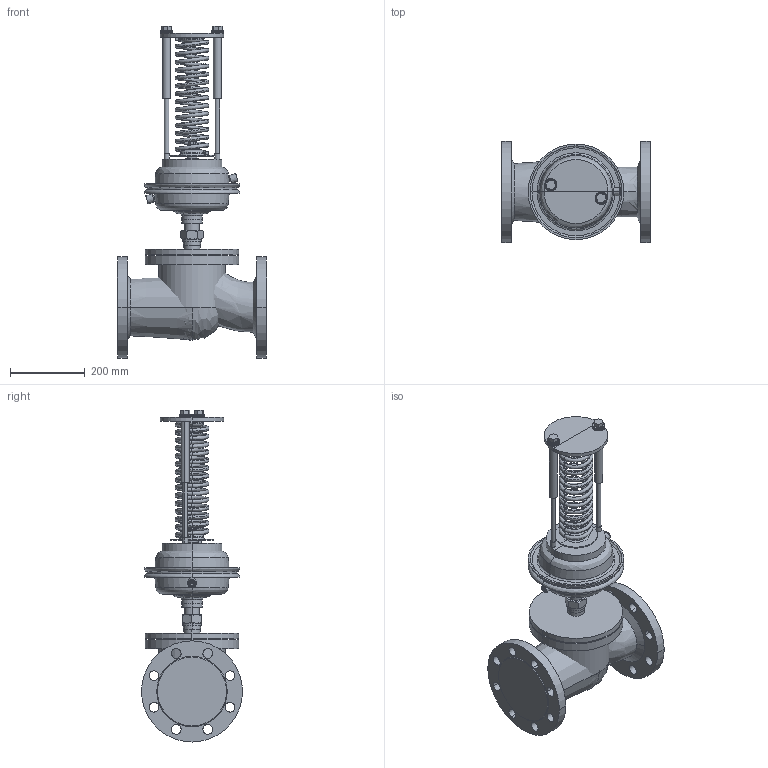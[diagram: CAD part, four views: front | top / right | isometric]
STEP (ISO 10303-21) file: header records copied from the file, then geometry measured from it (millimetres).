
FILE_DESCRIPTION(/* description */ (''),/* implementation_level */ '2;1');
FILE_NAME(/* name */ 'ETM_Регулятордавления_УРРД_НЗ_РД_DN125_PN25 0.01—0.07 МПа',/* time_stamp */ '2026-04-27T12:31:31+03:00',/* author */ (''),/* organization */ (''),/* preprocessor_version */ 'ST-DEVELOPER v20',/* originating_system */ '',/* authorisation */ '');
FILE_SCHEMA (('AP242_MANAGED_MODEL_BASED_3D_ENGINEERING_MIM_LF { 1 0 10303 442 1 1 4 }'));
Length unit declared in the file: millimetre
Products named in the file (13): TopLevelAssembly; Выдавливание; Переход; Выдавливание_
1; Переход_1; Переход_2; Переход_3; Объемная геометрия 
присоединена; Выдавливание_
2; Выдавливание_
3; Объемная геометрия 
присоединена_1; Выдавливание_
4; Пружина желтая
Assembly tree (12 placements, depth 2):
  TopLevelAssembly
    Выдавливание
    Переход
    Выдавливание_
1
    Переход_1
    Переход_2
    Переход_3
    Объемная геометрия 
присоединена
    Выдавливание_
2
    Выдавливание_
3
    Объемная геометрия 
присоединена_1
    Выдавливание_
4
    Пружина желтая
Bounding box: 400 x 270 x 886.41 mm (x, y, z)
Volume: 20879036.7 mm3; surface area: 1596069.8 mm2
Topology: 33 solids, 33 shells, 522 faces, 1078 edges, 560 vertices
Faces by surface type: bspline 191, plane 183, cylinder 138, cone 10
Entity records: 17101 total; most frequent: CARTESIAN_POINT 5903, DIRECTION 2372, ORIENTED_EDGE 2064, EDGE_CURVE 1032, AXIS2_PLACEMENT_3D 1008, CIRCLE 651, VERTEX_POINT 560, EDGE_LOOP 558
